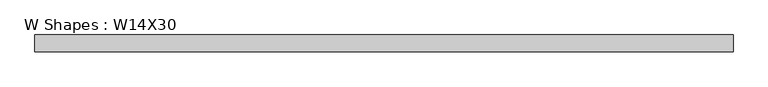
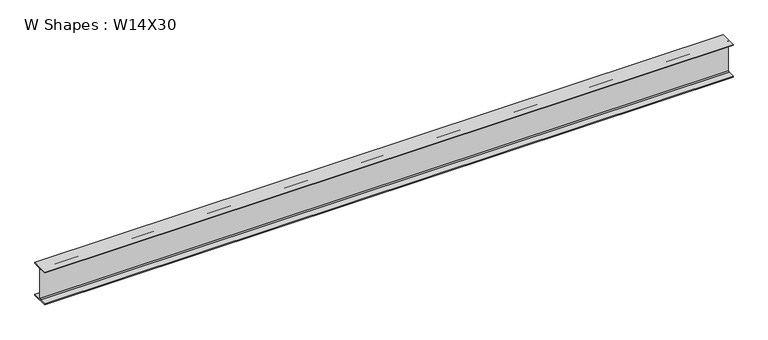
"""IFC4 building model written with IfcOpenShell, lengths in millimetres: beam geometry, W Shapes : W14X30."""

from ifc_helpers import new_model, si_unit, point, frame, frame_2d, origin, place, context, project, spatial, polyline, circle_curve, trimmed, segment, composite_curve, outline, extrude, source, transform, mapped, element, save


def w_shapes_w14x30_7cdcd298(model_context):
    return source(origin(), model_context, "Body", "SweptSolid", [
        extrude(outline(composite_curve([segment(polyline([(85.471, -165.481), (85.471, -175.26), (-85.471, -175.26), (-85.471, -165.481), (-13.589, -165.481)]), True, "CONTINUOUS"), segment(trimmed(circle_curve(frame_2d((-13.589, -155.321)), 10.16), [point((-13.589, -165.481))], [point((-3.429, -155.321))], True, "CARTESIAN"), True, "CONTINUOUS"), segment(polyline([(-3.429, -155.321), (-3.429, 155.321)]), True, "CONTINUOUS"), segment(trimmed(circle_curve(frame_2d((-13.589, 155.321)), 10.16), [point((-3.429, 155.321))], [point((-13.589, 165.481))], True, "CARTESIAN"), True, "CONTINUOUS"), segment(polyline([(-13.589, 165.481), (-85.471, 165.481), (-85.471, 175.26), (85.471, 175.26), (85.471, 165.481), (13.589, 165.481)]), True, "CONTINUOUS"), segment(trimmed(circle_curve(frame_2d((13.589, 155.321)), 10.16), [point((13.589, 165.481))], [point((3.429, 155.321))], True, "CARTESIAN"), True, "CONTINUOUS"), segment(polyline([(3.429, 155.321), (3.429, -155.321)]), True, "CONTINUOUS"), segment(trimmed(circle_curve(frame_2d((13.589, -155.321)), 10.16), [point((3.429, -155.321))], [point((13.589, -165.481))], True, "CARTESIAN"), True, "CONTINUOUS"), segment(polyline([(13.589, -165.481), (85.471, -165.481)]), True, "CONTINUOUS")], self_intersect=False)), frame((-3494.0875, 0.0, 0.0), z_axis=(1.0, 0.0, 0.0), x_axis=(0.0, 1.0, 0.0)), (0.0, 0.0, 1.0), 6988.175),
    ])


if __name__ == "__main__":
    model = new_model("IFC4")
    model_context = context("Model", 3, world=origin())
    ifc_project = project(units=[si_unit("LENGTHUNIT", "METRE", prefix="MILLI")], contexts=[model_context])
    site = spatial("IfcSite", under=ifc_project)
    building = spatial("IfcBuilding", under=site)
    placement = place(None, origin())
    w_shapes_w14x30_shape = w_shapes_w14x30_7cdcd298(model_context)
    element("IfcBeam", 1, ObjectType="W Shapes : W14X30", at=placement, inside=building, context=model_context, shape_type="MappedRepresentation", body=[
        mapped(w_shapes_w14x30_shape, transform((0.0, 0.0, 0.0), x_axis=(1.0, 0.0, 0.0), y_axis=(0.0, 1.0, 0.0), z_axis=(0.0, 0.0, 1.0))),
    ])
    save(model, "model.ifc")
